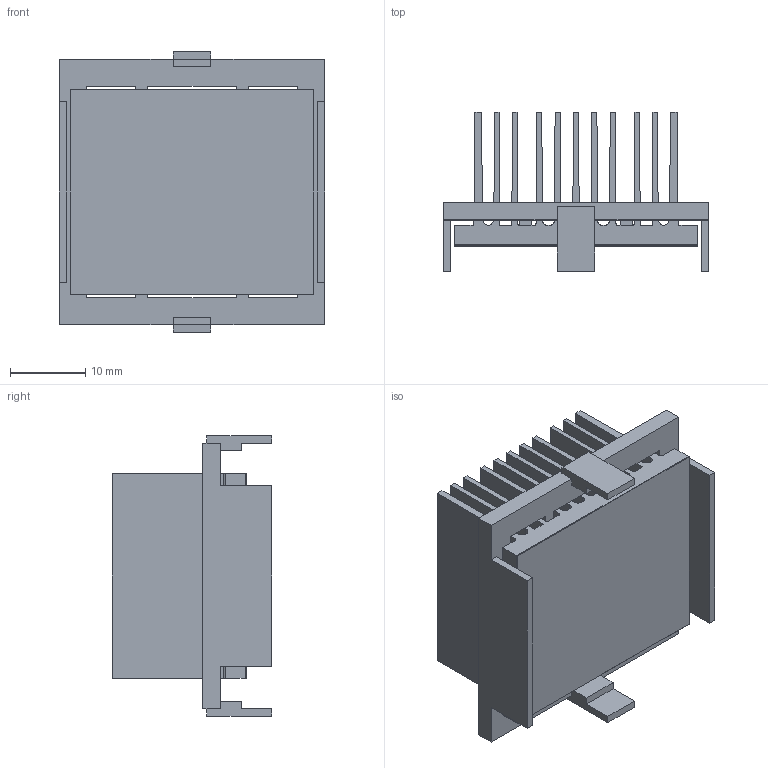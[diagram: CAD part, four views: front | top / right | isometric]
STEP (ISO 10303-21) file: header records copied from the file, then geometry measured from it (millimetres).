
FILE_DESCRIPTION (( 'STEP AP214' ), '1' );
FILE_NAME ('INH33001-18-2.6Y.STEP', '2023-02-17T18:15:01', ( '' ), ( '' ), 'SwSTEP 2.0', 'SolidWorks 2020', '' );
FILE_SCHEMA (( 'AUTOMOTIVE_DESIGN' ));
Length unit declared in the file: millimetre
Products named in the file (1): INH33001-18-2.6Y
Bounding box: 35.2 x 21.1 x 37.2 mm (x, y, z)
Volume: 7561.3 mm3; surface area: 15474.1 mm2
Topology: 3 solids, 3 shells, 130 faces, 372 edges, 248 vertices
Faces by surface type: plane 112, cylinder 18
Entity records: 5678 total; most frequent: CARTESIAN_POINT 751, ORIENTED_EDGE 744, DIRECTION 670, EDGE_CURVE 372, VECTOR 336, LINE 336, VERTEX_POINT 248, AXIS2_PLACEMENT_3D 167
